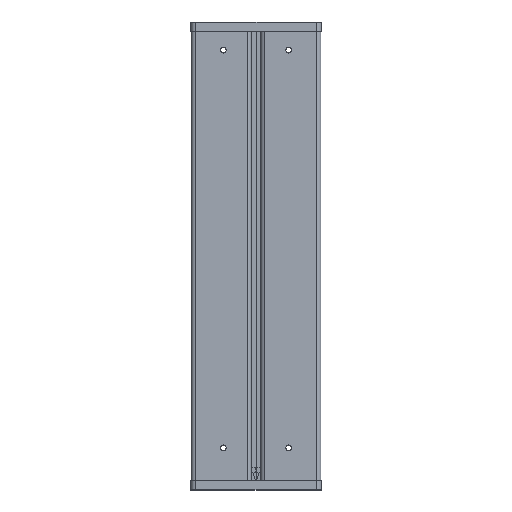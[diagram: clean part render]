
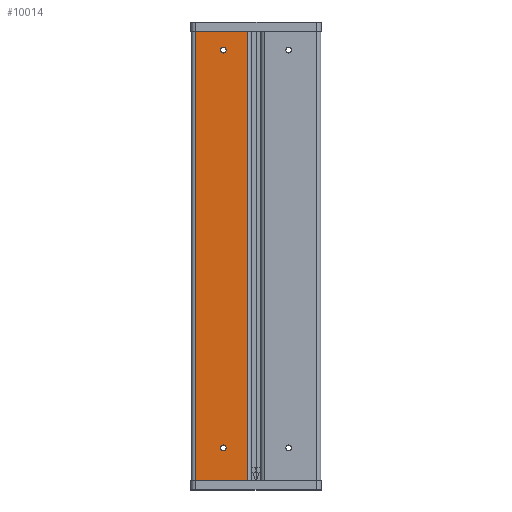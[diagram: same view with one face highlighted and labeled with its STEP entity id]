
A CAD part, left-side view. The second image highlights one B-rep face of the part: STEP entity #10014.
In plain terms, the highlighted planar face has unit normal (-1, 0, 0).
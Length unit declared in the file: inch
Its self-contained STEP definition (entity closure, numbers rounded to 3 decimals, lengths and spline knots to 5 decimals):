
#355 = AXIS2_PLACEMENT_3D ( 'NONE', #1440, #15808, #27146 ) ;
#606 = EDGE_CURVE ( 'NONE', #8250, #22427, #6401, .T. ) ;
#1212 = CARTESIAN_POINT ( 'NONE',  ( -4.21, 0.855, -5.578 ) ) ;
#1314 = CARTESIAN_POINT ( 'NONE',  ( -4.21, 0.855, 5.125 ) ) ;
#1340 = CIRCLE ( 'NONE', #355, 0.078 ) ;
#1440 = CARTESIAN_POINT ( 'NONE',  ( -4.21, 0.855, -5.5 ) ) ;
#1547 = CARTESIAN_POINT ( 'NONE',  ( -4.21, 0.11, 6. ) ) ;
#1726 = VECTOR ( 'NONE', #18240, 39.37008 ) ;
#2541 = DIRECTION ( 'NONE',  ( 0., 0., 1. ) ) ;
#3087 = LINE ( 'NONE', #12300, #14717 ) ;
#3339 = DIRECTION ( 'NONE',  ( 0., 0., 1. ) ) ;
#3380 = CARTESIAN_POINT ( 'NONE',  ( -4.21, 0.11, -6. ) ) ;
#4595 = EDGE_CURVE ( 'NONE', #26783, #17990, #9785, .T. ) ;
#5712 = DIRECTION ( 'NONE',  ( 0., 0., -1. ) ) ;
#6184 = ORIENTED_EDGE ( 'NONE', *, *, #10074, .T. ) ;
#6401 = LINE ( 'NONE', #7024, #8542 ) ;
#6604 = VERTEX_POINT ( 'NONE', #11413 ) ;
#7024 = CARTESIAN_POINT ( 'NONE',  ( -4.21, 1.6, 6. ) ) ;
#7295 = DIRECTION ( 'NONE',  ( 1., 0., 0. ) ) ;
#7405 = CARTESIAN_POINT ( 'NONE',  ( -4.21, 0.855, 5.125 ) ) ;
#7424 = CARTESIAN_POINT ( 'NONE',  ( -4.21, 1.49, 6. ) ) ;
#8051 = ORIENTED_EDGE ( 'NONE', *, *, #17933, .F. ) ;
#8250 = VERTEX_POINT ( 'NONE', #7424 ) ;
#8396 = EDGE_LOOP ( 'NONE', ( #11198, #8051 ) ) ;
#8542 = VECTOR ( 'NONE', #16530, 39.37008 ) ;
#9151 = PLANE ( 'NONE',  #28060 ) ;
#9785 = CIRCLE ( 'NONE', #19751, 0.078 ) ;
#10014 = ADVANCED_FACE ( 'Face6', ( #23802, #28128, #30612 ), #9151, .F. ) ;
#10074 = EDGE_CURVE ( 'NONE', #8250, #13652, #10086, .T. ) ;
#10086 = LINE ( 'NONE', #29194, #15181 ) ;
#11198 = ORIENTED_EDGE ( 'NONE', *, *, #28599, .F. ) ;
#11335 = ORIENTED_EDGE ( 'NONE', *, *, #24987, .T. ) ;
#11413 = CARTESIAN_POINT ( 'NONE',  ( -4.21, 0.855, 5.047 ) ) ;
#11438 = EDGE_CURVE ( 'NONE', #17990, #26783, #1340, .T. ) ;
#11445 = CIRCLE ( 'NONE', #26861, 0.078 ) ;
#12300 = CARTESIAN_POINT ( 'NONE',  ( -4.21, 1.6, -6. ) ) ;
#12762 = VERTEX_POINT ( 'NONE', #3380 ) ;
#12893 = EDGE_LOOP ( 'NONE', ( #24962, #28799 ) ) ;
#13652 = VERTEX_POINT ( 'NONE', #24272 ) ;
#14276 = DIRECTION ( 'NONE',  ( -1., 0., 0. ) ) ;
#14717 = VECTOR ( 'NONE', #15121, 39.37008 ) ;
#14870 = DIRECTION ( 'NONE',  ( 0., 0., 1. ) ) ;
#15121 = DIRECTION ( 'NONE',  ( 0., -1., 0. ) ) ;
#15181 = VECTOR ( 'NONE', #5712, 39.37008 ) ;
#15808 = DIRECTION ( 'NONE',  ( -1., 0., 0. ) ) ;
#16530 = DIRECTION ( 'NONE',  ( 0., -1., 0. ) ) ;
#17347 = ORIENTED_EDGE ( 'NONE', *, *, #25286, .F. ) ;
#17933 = EDGE_CURVE ( 'NONE', #6604, #20572, #25133, .T. ) ;
#17990 = VERTEX_POINT ( 'NONE', #19356 ) ;
#18240 = DIRECTION ( 'NONE',  ( 0., 0., -1. ) ) ;
#19089 = EDGE_LOOP ( 'NONE', ( #11335, #17347, #27485, #6184 ) ) ;
#19145 = CARTESIAN_POINT ( 'NONE',  ( -4.21, 1.6, 6. ) ) ;
#19356 = CARTESIAN_POINT ( 'NONE',  ( -4.21, 0.855, -5.422 ) ) ;
#19370 = CARTESIAN_POINT ( 'NONE',  ( -4.21, 0.855, -5.5 ) ) ;
#19751 = AXIS2_PLACEMENT_3D ( 'NONE', #19370, #26198, #14870 ) ;
#20054 = DIRECTION ( 'NONE',  ( -1., 0., 0. ) ) ;
#20572 = VERTEX_POINT ( 'NONE', #20827 ) ;
#20827 = CARTESIAN_POINT ( 'NONE',  ( -4.21, 0.855, 5.203 ) ) ;
#22164 = AXIS2_PLACEMENT_3D ( 'NONE', #7405, #14276, #2541 ) ;
#22427 = VERTEX_POINT ( 'NONE', #29506 ) ;
#22915 = LINE ( 'NONE', #1547, #1726 ) ;
#23802 = FACE_BOUND ( 'NONE', #12893, .T. ) ;
#24272 = CARTESIAN_POINT ( 'NONE',  ( -4.21, 1.49, -6. ) ) ;
#24962 = ORIENTED_EDGE ( 'NONE', *, *, #11438, .F. ) ;
#24987 = EDGE_CURVE ( 'NONE', #13652, #12762, #3087, .T. ) ;
#25133 = CIRCLE ( 'NONE', #22164, 0.078 ) ;
#25286 = EDGE_CURVE ( 'NONE', #22427, #12762, #22915, .T. ) ;
#26198 = DIRECTION ( 'NONE',  ( -1., 0., 0. ) ) ;
#26783 = VERTEX_POINT ( 'NONE', #1212 ) ;
#26861 = AXIS2_PLACEMENT_3D ( 'NONE', #1314, #20054, #3339 ) ;
#27146 = DIRECTION ( 'NONE',  ( 0., 0., 1. ) ) ;
#27485 = ORIENTED_EDGE ( 'NONE', *, *, #606, .F. ) ;
#28060 = AXIS2_PLACEMENT_3D ( 'NONE', #19145, #7295, #28275 ) ;
#28128 = FACE_OUTER_BOUND ( 'NONE', #19089, .T. ) ;
#28275 = DIRECTION ( 'NONE',  ( 0., 0., -1. ) ) ;
#28599 = EDGE_CURVE ( 'NONE', #20572, #6604, #11445, .T. ) ;
#28799 = ORIENTED_EDGE ( 'NONE', *, *, #4595, .F. ) ;
#29194 = CARTESIAN_POINT ( 'NONE',  ( -4.21, 1.49, 6. ) ) ;
#29506 = CARTESIAN_POINT ( 'NONE',  ( -4.21, 0.11, 6. ) ) ;
#30612 = FACE_BOUND ( 'NONE', #8396, .T. ) ;
